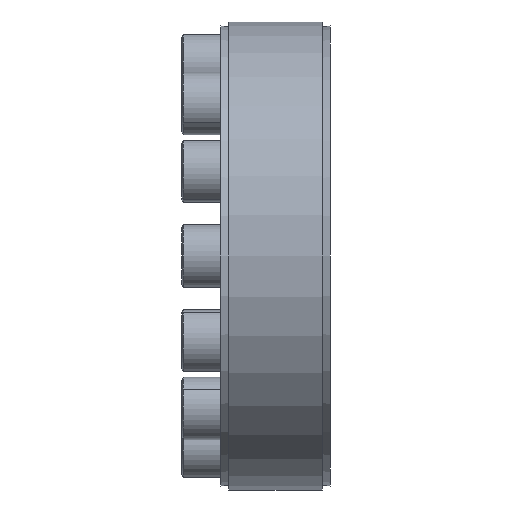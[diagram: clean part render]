
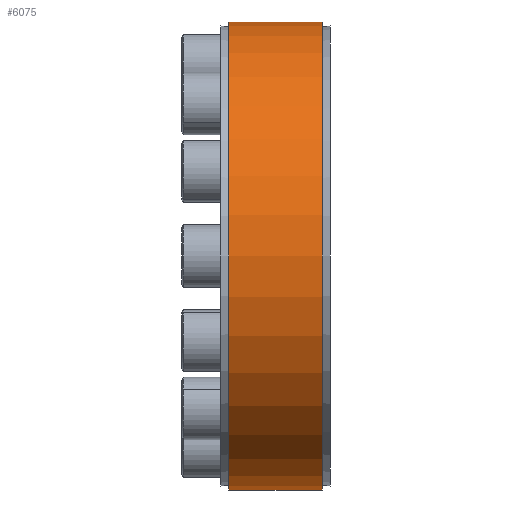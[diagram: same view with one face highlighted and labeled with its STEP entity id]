
A CAD part, front view. The second image highlights one B-rep face of the part: STEP entity #6075.
In plain terms, the highlighted cylindrical face has radius 60 mm (diameter 120 mm), a partial arc.
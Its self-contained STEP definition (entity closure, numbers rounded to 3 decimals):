
#3121 = DIRECTION ( 'NONE',  ( 0., 0., 1. ) ) ;
#3122 = DIRECTION ( 'NONE',  ( -1., 0., 0. ) ) ;
#3123 = CARTESIAN_POINT ( 'NONE',  ( 0., 0., 0. ) ) ;
#3124 = AXIS2_PLACEMENT_3D ( 'NONE', #3123, #3122, #3121 ) ;
#3126 = CYLINDRICAL_SURFACE ( 'NONE', #3124, 60. ) ;
#3127 = FACE_OUTER_BOUND ( 'NONE', #6076, .T. ) ;
#3128 = DIRECTION ( 'NONE',  ( 0., 0., 1. ) ) ;
#3129 = DIRECTION ( 'NONE',  ( -1., 0., 0. ) ) ;
#3130 = CARTESIAN_POINT ( 'NONE',  ( 2., 0., 0. ) ) ;
#3131 = AXIS2_PLACEMENT_3D ( 'NONE', #3130, #3129, #3128 ) ;
#3132 = CIRCLE ( 'NONE', #3131, 60. ) ;
#3146 = CARTESIAN_POINT ( 'NONE',  ( 2., 0., -60. ) ) ;
#3147 = DIRECTION ( 'NONE',  ( -1., 0., 0. ) ) ;
#3148 = VECTOR ( 'NONE', #3147, 1000. ) ;
#3149 = CARTESIAN_POINT ( 'NONE',  ( 0., 0., -60. ) ) ;
#3150 = LINE ( 'NONE', #3149, #3148 ) ;
#3151 = CARTESIAN_POINT ( 'NONE',  ( 26., 0., -60. ) ) ;
#3152 = CARTESIAN_POINT ( 'NONE',  ( 26., 0., 60. ) ) ;
#3201 = DIRECTION ( 'NONE',  ( -1., 0., 0. ) ) ;
#3202 = VECTOR ( 'NONE', #3201, 1000. ) ;
#3203 = CARTESIAN_POINT ( 'NONE',  ( 0., 0., 60. ) ) ;
#3204 = LINE ( 'NONE', #3203, #3202 ) ;
#3205 = CARTESIAN_POINT ( 'NONE',  ( 2., 0., 60. ) ) ;
#3260 = DIRECTION ( 'NONE',  ( 0., 0., 1. ) ) ;
#3261 = DIRECTION ( 'NONE',  ( -1., 0., 0. ) ) ;
#3262 = CARTESIAN_POINT ( 'NONE',  ( 26., 0., 0. ) ) ;
#3263 = AXIS2_PLACEMENT_3D ( 'NONE', #3262, #3261, #3260 ) ;
#3264 = CIRCLE ( 'NONE', #3263, 60. ) ;
#6071 = ORIENTED_EDGE ( 'NONE', *, *, #6142, .T. ) ;
#6072 = ORIENTED_EDGE ( 'NONE', *, *, #6103, .T. ) ;
#6073 = ORIENTED_EDGE ( 'NONE', *, *, #6074, .F. ) ;
#6074 = EDGE_CURVE ( 'NONE', #6098, #6101, #3132, .T. ) ;
#6075 = ADVANCED_FACE ( 'NONE', ( #3127 ), #3126, .T. ) ;
#6076 = EDGE_LOOP ( 'NONE', ( #6077, #6071, #6072, #6073 ) ) ;
#6077 = ORIENTED_EDGE ( 'NONE', *, *, #6097, .F. ) ;
#6094 = VERTEX_POINT ( 'NONE', #3152 ) ;
#6095 = VERTEX_POINT ( 'NONE', #3151 ) ;
#6097 = EDGE_CURVE ( 'NONE', #6095, #6098, #3150, .T. ) ;
#6098 = VERTEX_POINT ( 'NONE', #3146 ) ;
#6101 = VERTEX_POINT ( 'NONE', #3205 ) ;
#6103 = EDGE_CURVE ( 'NONE', #6094, #6101, #3204, .T. ) ;
#6142 = EDGE_CURVE ( 'NONE', #6095, #6094, #3264, .T. ) ;
